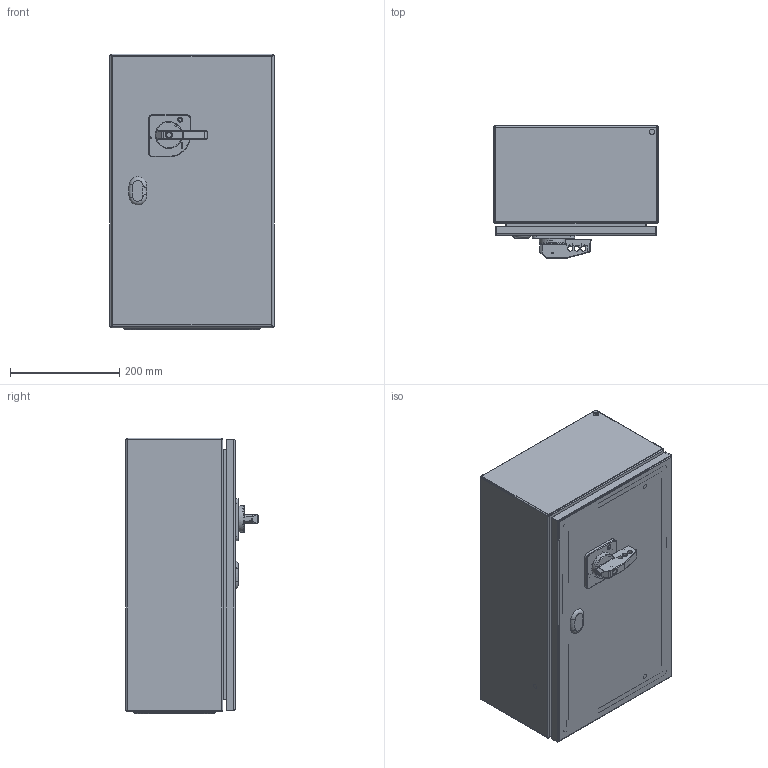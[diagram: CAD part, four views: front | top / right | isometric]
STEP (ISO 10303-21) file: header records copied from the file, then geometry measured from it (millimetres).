
FILE_DESCRIPTION(/* description */ (''),/* implementation_level */ '2;1');
FILE_NAME(/* name */ '4003039.stp',/* time_stamp */ '2019-12-12T08:03:13+01:00',/* author */ (''),/* organization */ (''),/* preprocessor_version */ 'ST-DEVELOPER v16.7',/* originating_system */ 'SIEMENS PLM Software NX 1892',/* authorisation */ '');
FILE_SCHEMA (('AUTOMOTIVE_DESIGN { 1 0 10303 214 3 1 1 1 }'));
Length unit declared in the file: millimetre
Products named in the file (1): BSOM0ED00678e10a
Bounding box: 300 x 241.5 x 504 mm (x, y, z)
Volume: 1160924.4 mm3; surface area: 1448028.1 mm2
Topology: 10 solids, 10 shells, 904 faces, 2254 edges, 1426 vertices
Faces by surface type: plane 404, cylinder 332, cone 74, torus 38, bspline 36, sphere 20
Full cylindrical faces by diameter (mm): 1 x32, 1.2 x8, 1.7 x2, 1.95 x4, 2.5 x1, 3 x1, 3.2 x1, 3.24 x1, 4.1 x4, 4.134 x2, 4.5 x33, 5 x2, 5.5 x12, 6 x5, 8 x9, 8.782 x2, 9 x6, 9.45 x6, 10 x6, 12.5 x1, 14 x4, 14.5 x1, 14.7 x1, 16 x1, 17.2 x1, 22 x2, 46 x1, 52 x1
Entity records: 30488 total; most frequent: CARTESIAN_POINT 7955, DIRECTION 3980, ORIENTED_EDGE 3832, EDGE_CURVE 1916, AXIS2_PLACEMENT_3D 1576, EDGE_LOOP 1359, VERTEX_POINT 1330, ADVANCED_FACE 903
